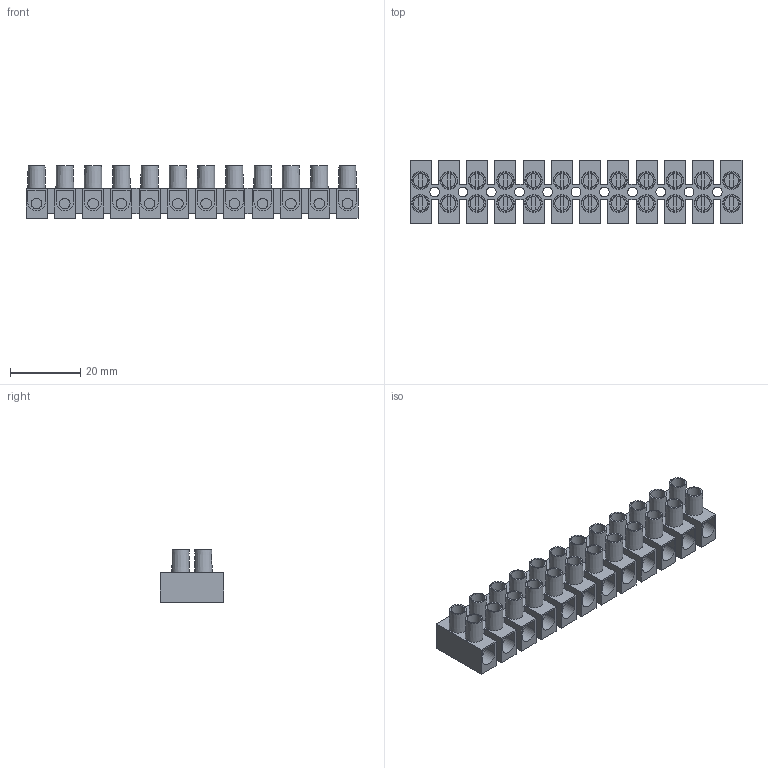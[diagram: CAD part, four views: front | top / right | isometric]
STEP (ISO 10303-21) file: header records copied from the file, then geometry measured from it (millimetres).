
FILE_DESCRIPTION(/* description */ ('Unknown'),/* implementation_level */ '2;1');
FILE_NAME(/* name */ 'MT 1804 TS',/* time_stamp */ '2021-10-08T09:55:52+02:00',/* author */ ('Unknown'),/* organization */ ('Unknown'),/* preprocessor_version */ 'ST-DEVELOPER v16.7',/* originating_system */ 'Solid Edge',/* authorisation */ 'Unknown');
FILE_SCHEMA (('AUTOMOTIVE_DESIGN {1 0 10303 214 3 1 1}'));
Length unit declared in the file: millimetre
Products named in the file (1): MT 1804 TS
Bounding box: 94.55 x 18.2 x 15 mm (x, y, z)
Volume: 9813.8 mm3; surface area: 14429.8 mm2
Topology: 1 solids, 1 shells, 558 faces, 1401 edges, 942 vertices
Faces by surface type: plane 451, cylinder 83, cone 24
Full cylindrical faces by diameter (mm): 2.8 x11, 3 x24, 4 x24
Entity records: 15804 total; most frequent: CARTESIAN_POINT 2701, DIRECTION 2696, ORIENTED_EDGE 2518, EDGE_CURVE 1259, LINE 940, VECTOR 940, VERTEX_POINT 883, AXIS2_PLACEMENT_3D 878
